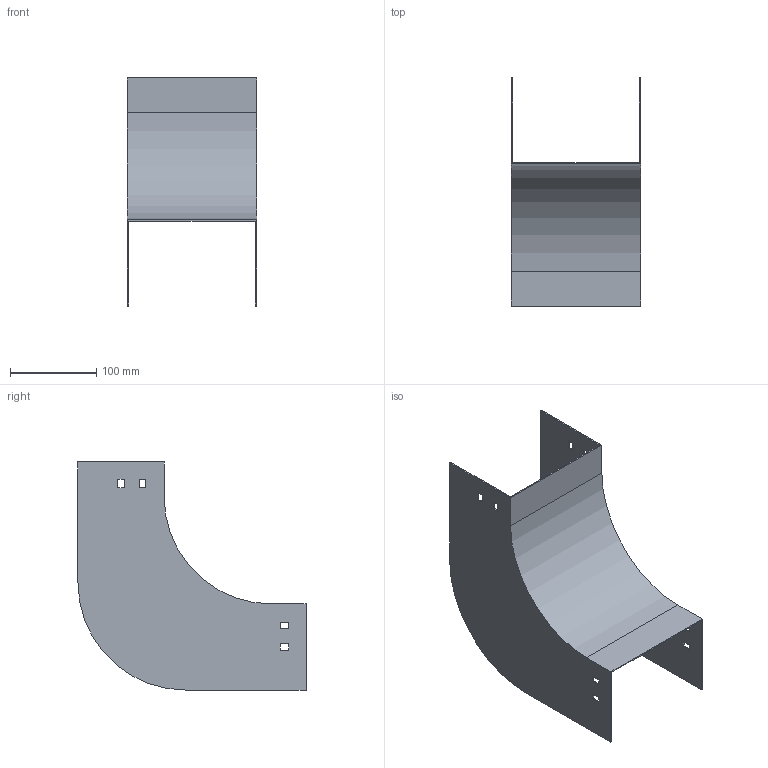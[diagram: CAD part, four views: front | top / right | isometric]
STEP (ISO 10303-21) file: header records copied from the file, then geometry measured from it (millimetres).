
FILE_DESCRIPTION (( 'STEP AP214' ), '1' );
FILE_NAME ('D9_151.step', '2025-07-16T09:08:24', ( '' ), ( '' ), 'SwSTEP 2.0', 'SolidWorks 2023', '' );
FILE_SCHEMA (( 'AUTOMOTIVE_DESIGN' ));
Length unit declared in the file: millimetre
Products named in the file (1): D9_151
Bounding box: 150 x 265 x 265 mm (x, y, z)
Volume: 189354.8 mm3; surface area: 255347.6 mm2
Topology: 1 solids, 1 shells, 50 faces, 144 edges, 96 vertices
Faces by surface type: plane 46, cylinder 4
Entity records: 1671 total; most frequent: CARTESIAN_POINT 291, ORIENTED_EDGE 288, DIRECTION 254, EDGE_CURVE 144, VECTOR 136, LINE 136, VERTEX_POINT 96, EDGE_LOOP 66
